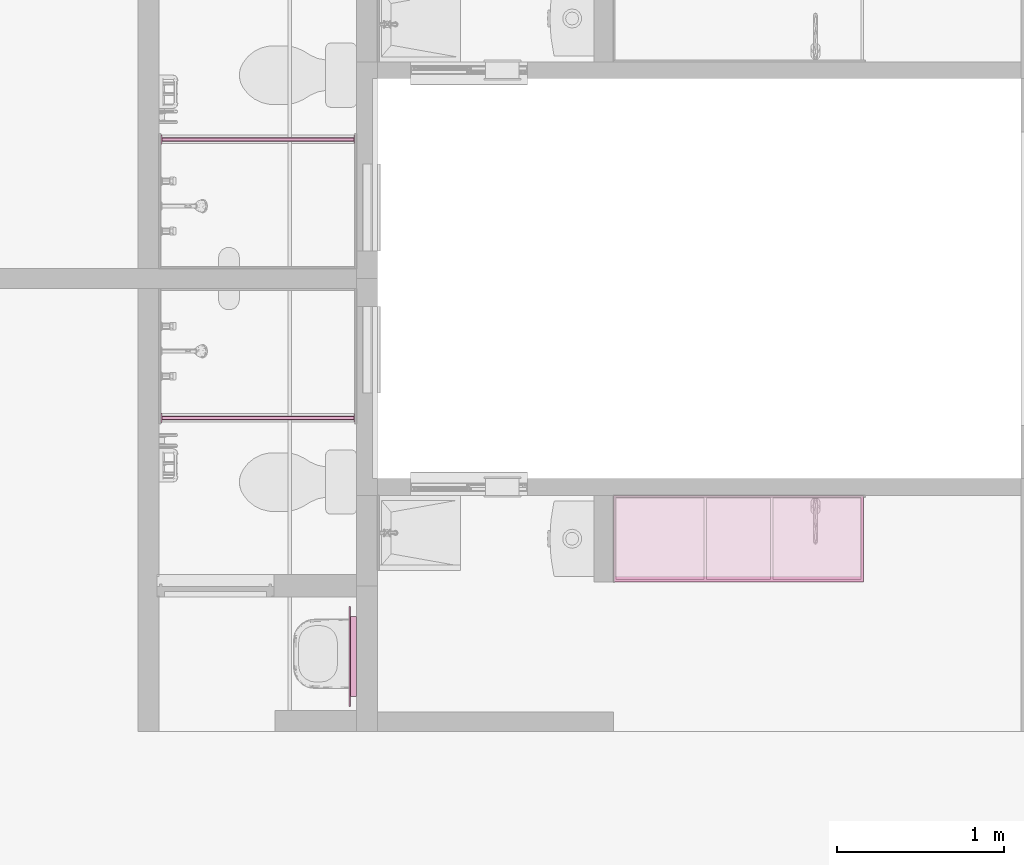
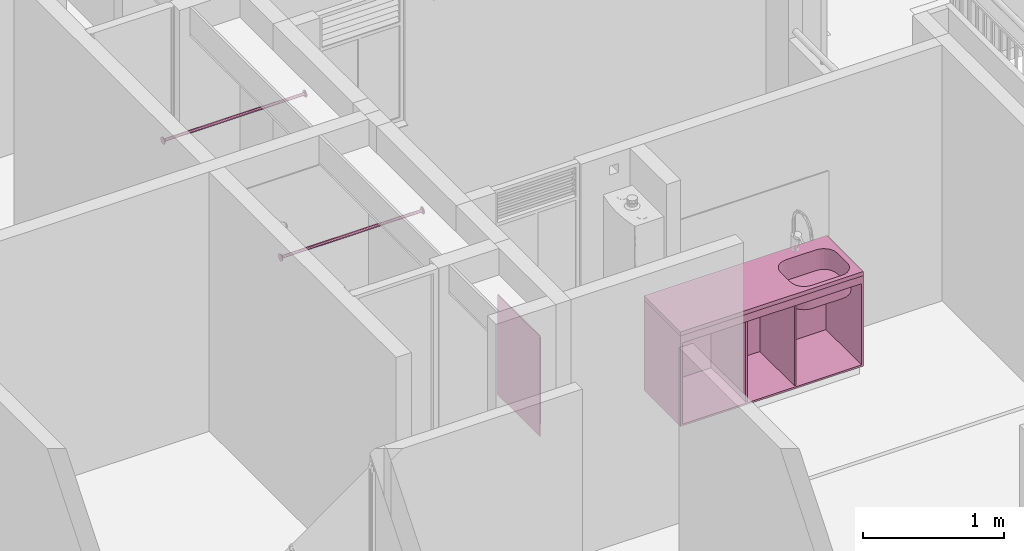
# One storey, part 41 of 47: 5 furniture elements.
"""IFC4 building model written with IfcOpenShell, lengths in metres."""

from ifc_helpers import new_model, entity, si_unit, converted_unit, derived_unit, direction, frame, origin, place, context, subcontext, project, spatial, arc, indexed_curve, outline, extrude, polygons, source, transform, mapped, material, constituent, constituent_set, type_object, type_shapes, element, save


model = new_model("IFC4")

# Units and contexts
model_context = context("Model", 3, precision=1e-05, world=origin(), true_north=direction((6.123031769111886e-17, 1.0)))
body_context = subcontext(model_context, "Body", "Model", "MODEL_VIEW")
ifc_project = project(units=[si_unit("LENGTHUNIT", "METRE"), si_unit("AREAUNIT", "SQUARE_METRE"), si_unit("VOLUMEUNIT", "CUBIC_METRE"), converted_unit("PLANEANGLEUNIT", "DEGREE", entity("IfcRatioMeasure", 0.017453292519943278), si_unit("PLANEANGLEUNIT", "RADIAN"), dimensions=[0, 0, 0, 0, 0, 0, 0]), si_unit("MASSUNIT", "GRAM", prefix="KILO"), derived_unit("MASSDENSITYUNIT", [(si_unit("MASSUNIT", "GRAM", prefix="KILO"), 1), (si_unit("LENGTHUNIT", "METRE"), -3)]), derived_unit("IONCONCENTRATIONUNIT", [(si_unit("MASSUNIT", "GRAM", prefix="KILO"), 1), (si_unit("LENGTHUNIT", "METRE"), -3)]), derived_unit("MOMENTOFINERTIAUNIT", [(si_unit("LENGTHUNIT", "METRE"), 4)]), si_unit("TIMEUNIT", "SECOND"), si_unit("FREQUENCYUNIT", "HERTZ"), si_unit("THERMODYNAMICTEMPERATUREUNIT", "DEGREE_CELSIUS"), derived_unit("THERMALTRANSMITTANCEUNIT", [(si_unit("MASSUNIT", "GRAM", prefix="KILO"), 1), (si_unit("THERMODYNAMICTEMPERATUREUNIT", "KELVIN"), -1), (si_unit("TIMEUNIT", "SECOND"), -3)]), derived_unit("THERMALCONDUCTANCEUNIT", [(si_unit("MASSUNIT", "GRAM", prefix="KILO"), 1), (si_unit("THERMODYNAMICTEMPERATUREUNIT", "KELVIN"), -1), (si_unit("TIMEUNIT", "SECOND"), -3), (si_unit("LENGTHUNIT", "METRE"), 1)]), derived_unit("VOLUMETRICFLOWRATEUNIT", [(si_unit("LENGTHUNIT", "METRE"), 3), (si_unit("TIMEUNIT", "SECOND"), -1)]), derived_unit("MASSFLOWRATEUNIT", [(si_unit("MASSUNIT", "GRAM", prefix="KILO"), 1), (si_unit("TIMEUNIT", "SECOND"), -1)]), derived_unit("ROTATIONALFREQUENCYUNIT", [(si_unit("TIMEUNIT", "SECOND"), -1)]), si_unit("ELECTRICCURRENTUNIT", "AMPERE"), si_unit("ELECTRICVOLTAGEUNIT", "VOLT"), si_unit("POWERUNIT", "WATT"), si_unit("FORCEUNIT", "NEWTON", prefix="KILO"), si_unit("ILLUMINANCEUNIT", "LUX"), si_unit("LUMINOUSFLUXUNIT", "LUMEN"), si_unit("LUMINOUSINTENSITYUNIT", "CANDELA"), derived_unit("USERDEFINED", [(si_unit("MASSUNIT", "GRAM", prefix="KILO"), -1), (si_unit("LENGTHUNIT", "METRE"), -2), (si_unit("TIMEUNIT", "SECOND"), 3), (si_unit("LUMINOUSFLUXUNIT", "LUMEN"), 1)]), derived_unit("USERDEFINED", [(si_unit("MASSUNIT", "GRAM", prefix="KILO"), 1), (si_unit("TIMEUNIT", "SECOND"), -3), (si_unit("LENGTHUNIT", "METRE"), 3), (si_unit("ELECTRICCURRENTUNIT", "AMPERE"), -2)]), derived_unit("SOUNDPOWERUNIT", [(si_unit("MASSUNIT", "GRAM", prefix="KILO"), 1), (si_unit("TIMEUNIT", "SECOND"), -3), (si_unit("LENGTHUNIT", "METRE"), 2)]), derived_unit("SOUNDPRESSUREUNIT", [(si_unit("MASSUNIT", "GRAM", prefix="KILO"), 1), (si_unit("LENGTHUNIT", "METRE"), -1), (si_unit("TIMEUNIT", "SECOND"), -2)]), derived_unit("LINEARVELOCITYUNIT", [(si_unit("LENGTHUNIT", "METRE"), 1), (si_unit("TIMEUNIT", "SECOND"), -1)]), si_unit("PRESSUREUNIT", "PASCAL"), derived_unit("USERDEFINED", [(si_unit("MASSUNIT", "GRAM", prefix="KILO"), 1), (si_unit("LENGTHUNIT", "METRE"), -2), (si_unit("TIMEUNIT", "SECOND"), -2)]), derived_unit("LINEARFORCEUNIT", [(si_unit("MASSUNIT", "GRAM", prefix="KILO"), 1), (si_unit("TIMEUNIT", "SECOND"), -2)]), derived_unit("PLANARFORCEUNIT", [(si_unit("MASSUNIT", "GRAM", prefix="KILO"), 1), (si_unit("LENGTHUNIT", "METRE"), -1), (si_unit("TIMEUNIT", "SECOND"), -2)]), derived_unit("SPECIFICHEATCAPACITYUNIT", [(si_unit("THERMODYNAMICTEMPERATUREUNIT", "KELVIN"), -1), (si_unit("LENGTHUNIT", "METRE"), 2), (si_unit("TIMEUNIT", "SECOND"), -2)]), derived_unit("HEATINGVALUEUNIT", [(si_unit("LENGTHUNIT", "METRE"), 2), (si_unit("TIMEUNIT", "SECOND"), -2)]), derived_unit("VAPORPERMEABILITYUNIT", [(si_unit("LENGTHUNIT", "METRE"), -1), (si_unit("TIMEUNIT", "SECOND"), 1)]), derived_unit("DYNAMICVISCOSITYUNIT", [(si_unit("MASSUNIT", "GRAM", prefix="KILO"), 1), (si_unit("TIMEUNIT", "SECOND"), -1), (si_unit("LENGTHUNIT", "METRE"), -1)]), derived_unit("THERMALEXPANSIONCOEFFICIENTUNIT", [(si_unit("THERMODYNAMICTEMPERATUREUNIT", "KELVIN"), -1)]), derived_unit("MODULUSOFELASTICITYUNIT", [(si_unit("MASSUNIT", "GRAM", prefix="KILO"), 1), (si_unit("LENGTHUNIT", "METRE"), -1), (si_unit("TIMEUNIT", "SECOND"), -2)]), derived_unit("ISOTHERMALMOISTURECAPACITYUNIT", [(si_unit("LENGTHUNIT", "METRE"), 3), (si_unit("MASSUNIT", "GRAM", prefix="KILO"), -1)]), derived_unit("MOISTUREDIFFUSIVITYUNIT", [(si_unit("TIMEUNIT", "SECOND"), -1), (si_unit("LENGTHUNIT", "METRE"), 2)])], contexts=[model_context])

# Site, building, storey
site_placement = place(None, origin())
site = spatial("IfcSite", under=ifc_project, at=site_placement, Name="Default", CompositionType="ELEMENT")
building_placement = place(site_placement, origin())
building = spatial("IfcBuilding", under=site, at=building_placement, CompositionType="ELEMENT")
storey_placement = place(building_placement, frame((0.0, 0.0, 11.750000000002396)))
storey = spatial("IfcBuildingStorey", under=building, at=storey_placement, Name="Nivel 6", CompositionType="ELEMENT", Elevation=11.750000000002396)

# Furniture
ifc_material_1 = material(Name="Aluminio", Category="Materials")
ifc_constituent_1 = constituent(ifc_material_1, Name="Aluminio", Category="Materials")
ifc_material_2 = material(Name="ESPEJO", Category="Materials")
ifc_constituent_2 = constituent(ifc_material_2, Name="ESPEJO", Category="Materials")
ifc_constituent_set_1 = constituent_set(constituents=[ifc_constituent_1, ifc_constituent_2])
ifc_constituent_3 = constituent(ifc_material_1, Name="Aluminio", Category="Materials")
ifc_constituent_4 = constituent(ifc_material_2, Name="ESPEJO", Category="Materials")
ifc_constituent_set_2 = constituent_set(constituents=[ifc_constituent_3, ifc_constituent_4])
furniture_type_1 = type_object("IfcFurnitureType", Name="E2050 - Espejo:E2050 - 0.60m x 0.87m - Espejo", AssemblyPlace="NOTDEFINED", PredefinedType="NOTDEFINED", material=ifc_constituent_set_2)
shared_shape_1 = source(origin(), body_context, "Body", "SweptSolid", [
    extrude(outline(indexed_curve([(-0.23999999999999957, -0.3749999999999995), (0.2399999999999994, -0.3749999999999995), (0.2399999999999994, 0.37499999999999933), (-0.23999999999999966, 0.3749999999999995), (-0.23999999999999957, -0.3749999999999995)], self_intersect=False), holes=[indexed_curve([(0.2149999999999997, -0.34999999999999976), (-0.21499999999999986, -0.34999999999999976), (-0.21499999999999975, 0.34999999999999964), (0.2149999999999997, 0.34999999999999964), (0.2149999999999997, -0.34999999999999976)], self_intersect=False)]), frame((0.12499999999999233, 0.062499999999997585, 1.485), z_axis=(0.0, 1.0, 0.0), x_axis=(1.0, 0.0, 0.0)), (0.0, 0.0, 1.0), 0.037500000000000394),
    extrude(outline(indexed_curve([(-0.00350000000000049, -0.30000000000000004), (0.00350000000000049, -0.30000000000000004), (0.00350000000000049, 0.30000000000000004), (-0.00350000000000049, 0.30000000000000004), (-0.00350000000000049, -0.30000000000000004)], self_intersect=False)), frame((0.1249999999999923, 0.10350000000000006, 1.05), z_axis=(0.0, 0.0, 1.0), x_axis=(0.0, 1.0, 0.0)), (0.0, 0.0, 1.0), 0.87),
])
type_shapes(furniture_type_1, [shared_shape_1])
furniture_1_placement = place(storey_placement, frame((4.024999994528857, -8.815000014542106, -0.020000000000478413), z_axis=(0.0, 0.0, 1.0), x_axis=(0.0, 1.0, 0.0)))
element("IfcFurniture", 1, at=furniture_1_placement, inside=storey, type_object=furniture_type_1, material=ifc_constituent_set_1, Name="E2050 - Espejo:E2050 - 0.60m x 0.87m - Espejo", ObjectType="E2050 - Espejo:E2050 - 0.60m x 0.87m - Espejo", PredefinedType="NOTDEFINED", context=body_context, shape_type="MappedRepresentation", body=[
    mapped(shared_shape_1, transform((0.0, 0.0, 0.0), scale=1.0)),
])

# Space
space_1_placement = place(storey_placement, origin())
space_1 = spatial("IfcSpace", under=storey, at=space_1_placement, Name="326", CompositionType="ELEMENT", PredefinedType="SPACE")

# Furniture
ifc_material_3 = material(Name="<Unnamed>")
furniture_type_2 = type_object("IfcFurnitureType", Name="Barra baño:E2050- Barra Baño- Acero inoxidable", AssemblyPlace="NOTDEFINED", PredefinedType="NOTDEFINED", material=ifc_material_3)
shared_shape_2 = source(origin(), body_context, "Body", "SweptSolid", [
    extrude(outline(indexed_curve([(-0.025, 0.0), (-9.341026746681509e-17, -0.025), (0.025, 2.707167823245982e-16), (-1.316959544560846e-16, 0.025)], segments=[arc(1, 2, 3), arc(3, 4, 1)], self_intersect=False)), frame((-1.1599989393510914, 0.0, 1.8000000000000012), z_axis=(1.0, 0.0, 0.0), x_axis=(0.0, 1.0, 0.0)), (0.0, 0.0, 1.0), 0.005000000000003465),
    extrude(outline(indexed_curve([(-0.03, 0.0), (-1.1209232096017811e-16, -0.029999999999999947), (0.03, 2.707167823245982e-16), (-1.3138979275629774e-16, 0.029999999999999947)], segments=[arc(1, 2, 3), arc(3, 4, 1)], self_intersect=False)), frame((-1.164998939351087, 0.0, 1.8000000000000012), z_axis=(1.0, 0.0, 0.0), x_axis=(0.0, 1.0, 0.0)), (0.0, 0.0, 1.0), 0.0049999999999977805),
    extrude(outline(indexed_curve([(-0.0125, 0.0), (-4.6705133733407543e-17, -0.012499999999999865), (0.0125, 0.0), (7.654042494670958e-19, 0.012499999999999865)], segments=[arc(1, 2, 3), arc(3, 4, 1)], self_intersect=False)), frame((-1.1549989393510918, 0.0, 1.7999999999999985), z_axis=(1.0, 0.0, 0.0), x_axis=(0.0, 1.0, 0.0)), (0.0, 0.0, 1.0), 1.149998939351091),
    extrude(outline(indexed_curve([(-0.025, 0.0), (-2.2663703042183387e-16, -0.025), (0.025, 0.0), (1.5308084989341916e-18, 0.025)], segments=[arc(1, 2, 3), arc(3, 4, 1)], self_intersect=False)), frame((-0.005000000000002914, 0.0, 1.7999999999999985), z_axis=(1.0, 0.0, 0.0), x_axis=(0.0, 1.0, 0.0)), (0.0, 0.0, 1.0), 0.005000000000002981),
    extrude(outline(indexed_curve([(-0.03, 0.0), (-2.1867373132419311e-16, -0.029999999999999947), (0.03, 0.0), (1.8369701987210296e-18, 0.029999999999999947)], segments=[arc(1, 2, 3), arc(3, 4, 1)], self_intersect=False)), frame((0.0, 0.0, 1.7999999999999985), z_axis=(1.0, 0.0, 0.0), x_axis=(0.0, 1.0, 0.0)), (0.0, 0.0, 1.0), 0.00499999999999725),
])
type_shapes(furniture_type_2, [shared_shape_2])
furniture_2_placement = place(space_1_placement, frame((3.9524999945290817, -7.260000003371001, 0.1299999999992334)))
element("IfcFurniture", 2, at=furniture_2_placement, inside=space_1, type_object=furniture_type_2, material=ifc_material_3, Name="Barra baño:E2050- Barra Baño- Acero inoxidable", ObjectType="Barra baño:E2050- Barra Baño- Acero inoxidable", PredefinedType="NOTDEFINED", context=body_context, shape_type="MappedRepresentation", body=[
    mapped(shared_shape_2, transform((0.0, 0.0, 0.0), scale=1.0)),
])

# Space
space_2_placement = place(storey_placement, origin())
space_2 = spatial("IfcSpace", under=storey, at=space_2_placement, Name="319", CompositionType="ELEMENT", PredefinedType="SPACE")

# Furniture
furniture_type_3 = type_object("IfcFurnitureType", Name="Barra baño:E2050- Barra Baño- Acero inoxidable", AssemblyPlace="NOTDEFINED", PredefinedType="NOTDEFINED", material=ifc_material_3)
shared_shape_3 = source(origin(), body_context, "Body", "SweptSolid", [
    extrude(outline(indexed_curve([(-0.025, 2.707167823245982e-16), (-2.9325041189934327e-16, -0.025), (0.025, 0.0), (7.924642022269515e-17, 0.025)], segments=[arc(1, 2, 3), arc(3, 4, 1)], self_intersect=False)), frame((-1.1599989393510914, 0.0, 1.8000000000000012), z_axis=(1.0, 0.0, 0.0), x_axis=(0.0, -1.0, 0.0)), (0.0, 0.0, 1.0), 0.005000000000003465),
    extrude(outline(indexed_curve([(-0.03, 2.707167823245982e-16), (-3.2525514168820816e-16, -0.029999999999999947), (0.03, 0.0), (9.509570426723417e-17, 0.029999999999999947)], segments=[arc(1, 2, 3), arc(3, 4, 1)], self_intersect=False)), frame((-1.164998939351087, 0.0, 1.8000000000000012), z_axis=(1.0, 0.0, 0.0), x_axis=(0.0, -1.0, 0.0)), (0.0, 0.0, 1.0), 0.0049999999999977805),
    extrude(outline(indexed_curve([(-0.0125, 0.0), (-8.001182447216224e-17, -0.012499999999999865), (0.0125, 0.0), (3.9623210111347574e-17, 0.012499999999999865)], segments=[arc(1, 2, 3), arc(3, 4, 1)], self_intersect=False)), frame((-1.1549989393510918, 0.0, 1.7999999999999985), z_axis=(1.0, 0.0, 0.0), x_axis=(0.0, -1.0, 0.0)), (0.0, 0.0, 1.0), 1.149998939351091),
    extrude(outline(indexed_curve([(-0.025, 0.0), (-1.600236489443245e-16, -0.025000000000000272), (0.025, 0.0), (-5.398034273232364e-17, 0.02499999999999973)], segments=[arc(1, 2, 3), arc(3, 4, 1)], self_intersect=False)), frame((-0.005000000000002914, 0.0, 1.7999999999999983), z_axis=(1.0, 0.0, 0.0), x_axis=(0.0, -1.0, 0.0)), (0.0, 0.0, 1.0), 0.005000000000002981),
    extrude(outline(indexed_curve([(-0.03, 0.0), (-1.9202837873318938e-16, -0.030000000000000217), (0.03, 0.0), (-3.813105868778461e-17, 0.029999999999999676)], segments=[arc(1, 2, 3), arc(3, 4, 1)], self_intersect=False)), frame((0.0, 0.0, 1.7999999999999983), z_axis=(1.0, 0.0, 0.0), x_axis=(0.0, -1.0, 0.0)), (0.0, 0.0, 1.0), 0.00499999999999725),
])
type_shapes(furniture_type_3, [shared_shape_3])
furniture_3_placement = place(space_2_placement, frame((3.952499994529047, -5.590000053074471, 0.12999999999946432)))
element("IfcFurniture", 3, at=furniture_3_placement, inside=space_2, type_object=furniture_type_3, material=ifc_material_3, Name="Barra baño:E2050- Barra Baño- Acero inoxidable", ObjectType="Barra baño:E2050- Barra Baño- Acero inoxidable", PredefinedType="NOTDEFINED", context=body_context, shape_type="MappedRepresentation", body=[
    mapped(shared_shape_3, transform((0.0, 0.0, 0.0), scale=1.0)),
])

# Space
space_3_placement = place(storey_placement, origin())
space_3 = spatial("IfcSpace", under=storey, at=space_3_placement, Name="329", CompositionType="ELEMENT", PredefinedType="SPACE")

# Furniture
ifc_material_4 = material(Name="mueble cocina", Category="Materials")
furniture_type_4 = type_object("IfcFurnitureType", Name="E2010 - Mueble bajo de cocina - Madera:E2010 - 1.50 x 0.52 - Mueble bajo de cocina - Madera", AssemblyPlace="NOTDEFINED", PredefinedType="NOTDEFINED", material=ifc_material_4)
shared_shape_4 = source(origin(), body_context, "Body", "SweptSolid", [
    extrude(outline(indexed_curve([(-0.007500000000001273, -0.7349999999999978), (0.007499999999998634, -0.7349999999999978), (0.007500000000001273, 0.7349999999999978), (-0.007499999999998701, 0.7349999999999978), (-0.007500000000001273, -0.7349999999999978)], self_intersect=False)), frame((0.04470032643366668, -0.5125000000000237, 0.8149999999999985), z_axis=(0.0, 0.0, 1.0), x_axis=(0.0, -1.0, 0.0)), (0.0, 0.0, 1.0), 0.06500000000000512),
    extrude(outline(indexed_curve([(-0.2600000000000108, -0.7499999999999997), (0.260000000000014, -0.7499999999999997), (0.2600000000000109, 0.7500000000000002), (-0.2600000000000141, 0.7499999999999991), (-0.2600000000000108, -0.7499999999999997)], self_intersect=False)), frame((0.04470032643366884, -0.2600000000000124, 0.09500000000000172), z_axis=(0.0, 0.0, 1.0), x_axis=(0.0, -1.0, 0.0)), (0.0, 0.0, 1.0), 0.0149999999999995),
    extrude(outline(indexed_curve([(-0.007500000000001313, -0.7500000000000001), (0.007499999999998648, -0.7500000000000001), (0.0075000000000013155, 0.7500000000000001), (-0.007499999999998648, 0.7500000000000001), (-0.007500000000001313, -0.7500000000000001)], self_intersect=False)), frame((0.04470032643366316, -0.00749999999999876, 0.11000000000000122), z_axis=(0.0, 0.0, 1.0), x_axis=(0.0, -1.0, 0.0)), (0.0, 0.0, 1.0), 0.7700000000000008),
    extrude(outline(indexed_curve([(-0.007500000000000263, -0.24500000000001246), (0.007499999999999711, -0.24500000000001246), (0.007500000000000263, 0.24500000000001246), (-0.007499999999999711, 0.24500000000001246), (-0.007500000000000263, -0.24500000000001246)], self_intersect=False)), frame((-0.1552996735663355, -0.2600000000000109, 0.11000000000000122), z_axis=(0.0, 0.0, 1.0), x_axis=(-1.0, 0.0, 0.0)), (0.0, 0.0, 1.0), 0.7700000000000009),
    extrude(outline(indexed_curve([(-0.007499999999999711, -0.24500000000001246), (0.007500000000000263, -0.24500000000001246), (0.007499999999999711, 0.24500000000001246), (-0.007500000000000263, 0.24500000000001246), (-0.007499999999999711, -0.24500000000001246)], self_intersect=False)), frame((0.24470032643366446, -0.26000000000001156, 0.11000000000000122), z_axis=(0.0, 0.0, 1.0), x_axis=(-1.0, 0.0, 0.0)), (0.0, 0.0, 1.0), 0.7700000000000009),
    extrude(outline(indexed_curve([(-0.00750000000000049, -0.2525000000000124), (0.0074999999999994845, -0.25250000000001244), (0.007500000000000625, 0.2525000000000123), (-0.007499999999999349, 0.2525000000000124), (-0.00750000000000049, -0.2525000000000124)], self_intersect=False)), frame((0.7872003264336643, -0.2675000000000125, 0.11000000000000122), z_axis=(0.0, 0.0, 1.0), x_axis=(-1.0, 0.0, 0.0)), (0.0, 0.0, 1.0), 0.7700000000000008),
    extrude(outline(indexed_curve([(-0.007499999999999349, -0.2525000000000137), (0.007500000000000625, -0.2525000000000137), (0.0074999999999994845, 0.25250000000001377), (-0.00750000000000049, 0.2525000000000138), (-0.007499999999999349, -0.2525000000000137)], self_intersect=False)), frame((-0.697799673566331, -0.2675000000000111, 0.11000000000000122), z_axis=(0.0, 0.0, 1.0), x_axis=(-1.0, 0.0, 0.0)), (0.0, 0.0, 1.0), 0.7700000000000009),
])
type_shapes(furniture_type_4, [shared_shape_4])
furniture_4_placement = place(space_3_placement, frame((6.207799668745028, -7.7250000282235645, 0.014999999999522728)))
element("IfcFurniture", 4, at=furniture_4_placement, inside=space_3, type_object=furniture_type_4, material=ifc_material_4, Name="E2010 - Mueble bajo de cocina - Madera:E2010 - 1.50 x 0.52 - Mueble bajo de cocina - Madera", ObjectType="E2010 - Mueble bajo de cocina - Madera:E2010 - 1.50 x 0.52 - Mueble bajo de cocina - Madera", PredefinedType="NOTDEFINED", context=body_context, shape_type="MappedRepresentation", body=[
    mapped(shared_shape_4, transform((0.0, 0.0, 0.0), scale=1.0)),
])
ifc_material_5 = material(Name="Mesón cocina", Category="Materials")
furniture_type_5 = type_object("IfcFurnitureType", Name="E1060 - Meson Socoda Radiante - 1.50 X 0.52 - Acero inoxidable:E1060 - 1.50 x 0.52 - Meson de cocina, lavadero y estufa - Acero inoxidable", AssemblyPlace="NOTDEFINED", PredefinedType="NOTDEFINED", material=ifc_material_5)
shared_shape_5 = source(origin(), body_context, "Body", "Tessellation", [
    polygons([(0.7500000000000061, 0.2600000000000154, 0.03499999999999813), (-0.7499999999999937, 0.2600000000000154, 0.03499999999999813), (-0.7499999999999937, -0.2600000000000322, 0.03499999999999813), (0.7500000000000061, -0.2600000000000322, 0.03499999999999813), (0.23610399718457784, 0.03077661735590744, 0.03499999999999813), (0.23985215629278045, 0.05924671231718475, 0.03499999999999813), (0.2508412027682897, 0.08577661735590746, 0.03499999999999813), (0.2683222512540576, 0.10855836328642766, 0.03499999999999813), (0.2911039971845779, 0.1260394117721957, 0.03499999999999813), (0.31763390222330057, 0.13702845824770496, 0.03499999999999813), (0.3461039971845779, 0.1407766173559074, 0.03499999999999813), (0.593473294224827, 0.14077661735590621, 0.03499999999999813), (0.6219433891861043, 0.13702845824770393, 0.03499999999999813), (0.6484732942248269, 0.1260394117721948, 0.03499999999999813), (0.6712550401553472, 0.10855836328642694, 0.03499999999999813), (0.6887360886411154, 0.08577661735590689, 0.03499999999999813), (0.6997251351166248, 0.05924671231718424, 0.03499999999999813), (0.7034732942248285, 0.03077661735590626, 0.03499999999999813), (0.703473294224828, -0.11422338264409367, 0.03499999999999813), (0.6997251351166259, -0.14269347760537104, 0.03499999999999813), (0.6887360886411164, -0.1692233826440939, 0.03499999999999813), (0.6712550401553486, -0.1920051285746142, 0.03499999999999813), (0.6484732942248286, -0.20948617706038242, 0.03499999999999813), (0.6219433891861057, -0.22047522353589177, 0.03499999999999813), (0.5934732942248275, -0.22422338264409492, 0.03499999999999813), (0.3461039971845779, -0.22422338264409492, 0.03499999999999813), (0.31763390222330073, -0.22047522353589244, 0.03499999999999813), (0.2911039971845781, -0.20948617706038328, 0.03499999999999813), (0.2683222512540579, -0.1920051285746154, 0.03499999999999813), (0.2508412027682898, -0.1692233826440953, 0.03499999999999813), (0.23985215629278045, -0.14269347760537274, 0.03499999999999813), (0.23610399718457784, -0.11422338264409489, 0.03499999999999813), (0.7500000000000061, 0.2600000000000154, -1.8678232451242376e-15), (0.7500000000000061, -0.2600000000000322, -1.8678232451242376e-15), (-0.7499999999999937, -0.2600000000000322, -1.8678232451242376e-15), (-0.7499999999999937, 0.2600000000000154, -1.8678232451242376e-15), (0.5934732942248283, 0.1507766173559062, -1.8678232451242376e-15), (0.34610399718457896, 0.1507766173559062, -1.8678232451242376e-15), (0.31504571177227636, 0.1466877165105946, -1.8678232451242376e-15), (0.2861039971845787, 0.13469966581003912, -1.8678232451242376e-15), (0.2612511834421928, 0.11562943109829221, -1.8678232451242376e-15), (0.2421809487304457, 0.09077661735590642, -1.8678232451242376e-15), (0.23019289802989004, 0.06183490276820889, -1.8678232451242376e-15), (0.22610399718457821, 0.030776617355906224, -1.8678232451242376e-15), (0.22610399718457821, -0.11422338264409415, -1.8678232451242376e-15), (0.2301928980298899, -0.14528166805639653, -1.8678232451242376e-15), (0.24218094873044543, -0.17422338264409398, -1.8678232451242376e-15), (0.2612511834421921, -0.19907619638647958, -1.8678232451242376e-15), (0.2861039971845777, -0.2181464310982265, -1.8678232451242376e-15), (0.31504571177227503, -0.2301344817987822, -1.8678232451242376e-15), (0.3461039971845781, -0.23422338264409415, -1.8678232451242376e-15), (0.5934732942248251, -0.23422338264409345, -1.8678232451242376e-15), (0.6245315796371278, -0.2301344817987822, -1.8678232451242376e-15), (0.6534732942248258, -0.21814643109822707, -1.8678232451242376e-15), (0.6783261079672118, -0.19907619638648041, -1.8678232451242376e-15), (0.6973963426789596, -0.17422338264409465, -1.8678232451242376e-15), (0.7093843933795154, -0.14528166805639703, -1.8678232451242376e-15), (0.7134732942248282, -0.11422338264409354, -1.8678232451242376e-15), (0.7134732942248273, 0.030776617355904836, -1.8678232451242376e-15), (0.7093843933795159, 0.061834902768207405, -1.8678232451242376e-15), (0.6973963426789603, 0.09077661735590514, -1.8678232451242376e-15), (0.6783261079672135, 0.11562943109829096, -1.8678232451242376e-15), (0.6534732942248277, 0.13469966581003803, -1.8678232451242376e-15), (0.62453157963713, 0.1466877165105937, -1.8678232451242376e-15), (0.5934732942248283, 0.15077661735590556, -0.16000000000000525), (0.6245315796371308, 0.1466877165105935, -0.16000000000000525), (0.6534732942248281, 0.13469966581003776, -0.16000000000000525), (0.6783261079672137, 0.1156294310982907, -0.16000000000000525), (0.6973963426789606, 0.0907766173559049, -0.16000000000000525), (0.7093843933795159, 0.06183490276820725, -0.16000000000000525), (0.7134732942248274, 0.030776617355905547, -0.16000000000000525), (0.7134732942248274, -0.11422338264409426, -0.16000000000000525), (0.7093843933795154, -0.1452816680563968, -0.16000000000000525), (0.6973963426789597, -0.1742233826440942, -0.16000000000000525), (0.6783261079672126, -0.19907619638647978, -0.16000000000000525), (0.6534732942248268, -0.21814643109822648, -0.16000000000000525), (0.6245315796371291, -0.2301344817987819, -0.16000000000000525), (0.5934732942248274, -0.2342233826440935, -0.16000000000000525), (0.3461039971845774, -0.23422338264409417, -0.16000000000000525), (0.3150457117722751, -0.23013448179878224, -0.16000000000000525), (0.28610399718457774, -0.21814643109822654, -0.16000000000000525), (0.26125118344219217, -0.19907619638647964, -0.16000000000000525), (0.24218094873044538, -0.17422338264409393, -0.16000000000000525), (0.2301928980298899, -0.14528166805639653, -0.16000000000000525), (0.22610399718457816, -0.11422338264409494, -0.16000000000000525), (0.22610399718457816, 0.030776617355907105, -0.16000000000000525), (0.23019289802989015, 0.06183490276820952, -0.16000000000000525), (0.2421809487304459, 0.09077661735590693, -0.16000000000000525), (0.261251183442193, 0.11562943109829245, -0.16000000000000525), (0.2861039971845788, 0.13469966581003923, -0.16000000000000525), (0.31504571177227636, 0.1466877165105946, -0.16000000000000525), (0.3461039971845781, 0.1507766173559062, -0.16000000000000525), (0.3461039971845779, 0.14077661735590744, -0.14475899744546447), (0.31763390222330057, 0.13702845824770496, -0.14475899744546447), (0.2911039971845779, 0.1260394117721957, -0.14475899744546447), (0.2683222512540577, 0.10855836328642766, -0.14475899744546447), (0.25084120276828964, 0.08577661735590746, -0.14475899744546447), (0.2398521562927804, 0.05924671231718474, -0.14475899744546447), (0.23610399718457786, 0.03077661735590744, -0.14475899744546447), (0.23610399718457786, -0.11422338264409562, -0.14475899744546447), (0.23985215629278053, -0.14269347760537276, -0.14475899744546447), (0.25084120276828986, -0.16922338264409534, -0.14475899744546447), (0.2683222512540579, -0.19200512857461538, -0.14475899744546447), (0.2911039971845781, -0.20948617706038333, -0.14475899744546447), (0.31763390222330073, -0.22047522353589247, -0.14475899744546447), (0.3461039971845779, -0.2242233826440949, -0.14475899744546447), (0.5934732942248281, -0.22422338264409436, -0.14475899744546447), (0.6219433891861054, -0.22047522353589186, -0.14475899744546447), (0.6484732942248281, -0.20948617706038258, -0.14475899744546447), (0.6712550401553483, -0.19200512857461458, -0.14475899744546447), (0.6887360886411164, -0.16922338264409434, -0.14475899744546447), (0.6997251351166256, -0.14269347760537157, -0.14475899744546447), (0.7034732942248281, -0.11422338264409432, -0.14475899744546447), (0.7034732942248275, 0.030776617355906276, -0.14475899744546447), (0.699725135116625, 0.05924671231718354, -0.14475899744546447), (0.6887360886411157, 0.08577661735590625, -0.14475899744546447), (0.6712550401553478, 0.10855836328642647, -0.14475899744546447), (0.6484732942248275, 0.1260394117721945, -0.14475899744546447), (0.6219433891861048, 0.13702845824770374, -0.14475899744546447), (0.5934732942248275, 0.14077661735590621, -0.14475899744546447)], [[[1, 2, 3, 4], [17, 18, 19, 20, 21, 22, 23, 24, 25, 26, 27, 28, 29, 30, 31, 32, 5, 6, 7, 8, 9, 10, 11, 12, 13, 14, 15, 16]], [[118, 119, 120, 93, 94, 95, 96, 97, 98, 99, 100, 101, 102, 103, 104, 105, 106, 107, 108, 109, 110, 111, 112, 113, 114, 115, 116, 117]], [[36, 33, 34, 35], [43, 44, 45, 46, 47, 48, 49, 50, 51, 52, 53, 54, 55, 56, 57, 58, 59, 60, 61, 62, 63, 64, 37, 38, 39, 40, 41, 42]], [[89, 90, 91, 92, 65, 66, 67, 68, 69, 70, 71, 72, 73, 74, 75, 76, 77, 78, 79, 80, 81, 82, 83, 84, 85, 86, 87, 88]], [[2, 1, 33, 36]], [[38, 37, 65, 92]], [[106, 26, 25, 107]], [[3, 2, 36, 35]], [[45, 44, 86, 85]], [[114, 113, 19, 18]], [[4, 3, 35, 34]], [[52, 51, 79, 78]], [[120, 12, 11, 93]], [[1, 4, 34, 33]], [[59, 58, 72, 71]], [[99, 5, 32, 100]], [[39, 91, 90, 40]], [[109, 108, 24, 23]], [[40, 90, 89, 41]], [[110, 109, 23, 22]], [[92, 91, 39, 38]], [[25, 24, 108, 107]], [[42, 88, 87, 43]], [[112, 111, 21, 20]], [[43, 87, 86, 44]], [[113, 112, 20, 19]], [[41, 89, 88, 42]], [[21, 111, 110, 22]], [[46, 84, 83, 47]], [[17, 16, 116, 115]], [[47, 83, 82, 48]], [[16, 15, 117, 116]], [[85, 84, 46, 45]], [[115, 114, 18, 17]], [[49, 81, 80, 50]], [[119, 118, 14, 13]], [[50, 80, 79, 51]], [[120, 119, 13, 12]], [[48, 82, 81, 49]], [[14, 118, 117, 15]], [[53, 77, 76, 54]], [[95, 94, 10, 9]], [[54, 76, 75, 55]], [[96, 95, 9, 8]], [[78, 77, 53, 52]], [[11, 10, 94, 93]], [[56, 74, 73, 57]], [[98, 97, 7, 6]], [[57, 73, 72, 58]], [[99, 98, 6, 5]], [[55, 75, 74, 56]], [[7, 97, 96, 8]], [[60, 70, 69, 61]], [[102, 101, 31, 30]], [[61, 69, 68, 62]], [[103, 102, 30, 29]], [[71, 70, 60, 59]], [[32, 31, 101, 100]], [[63, 67, 66, 64]], [[105, 104, 28, 27]], [[64, 66, 65, 37]], [[106, 105, 27, 26]], [[62, 68, 67, 63]], [[28, 104, 103, 29]]], closed=True),
])
type_shapes(furniture_type_5, [shared_shape_5])
furniture_5_placement = place(space_3_placement, frame((6.252499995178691, -7.98500002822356, 0.8949999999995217)))
element("IfcFurniture", 5, at=furniture_5_placement, inside=space_3, type_object=furniture_type_5, material=ifc_material_5, Name="E1060 - Meson Socoda Radiante - 1.50 X 0.52 - Acero inoxidable:E1060 - 1.50 x 0.52 - Meson de cocina, lavadero y estufa - Acero inoxidable", ObjectType="E1060 - Meson Socoda Radiante - 1.50 X 0.52 - Acero inoxidable:E1060 - 1.50 x 0.52 - Meson de cocina, lavadero y estufa - Acero inoxidable", PredefinedType="NOTDEFINED", context=body_context, shape_type="MappedRepresentation", body=[
    mapped(shared_shape_5, transform((0.0, 0.0, 0.0), scale=1.0)),
])

save(model, "model.ifc")
